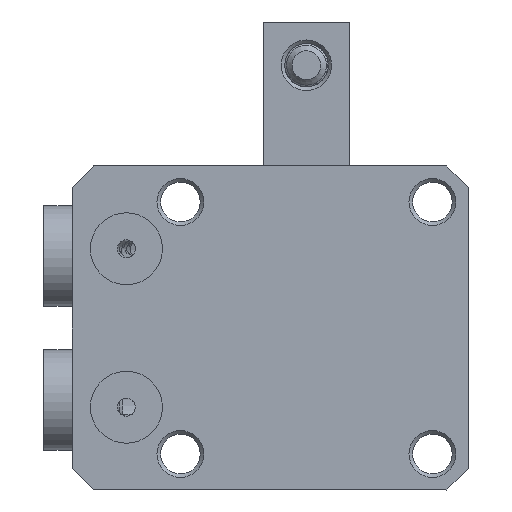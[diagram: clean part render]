
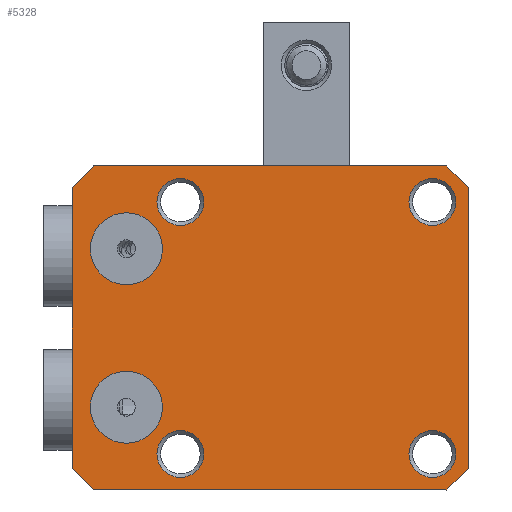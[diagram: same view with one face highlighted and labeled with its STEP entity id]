
A CAD part, front view. The second image highlights one B-rep face of the part: STEP entity #5328.
In plain terms, the highlighted planar face has unit normal (0, -1, 0).
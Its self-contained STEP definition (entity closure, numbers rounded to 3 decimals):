
#172=PLANE('',#5896);
#283=FACE_BOUND('',#840,.T.);
#284=FACE_BOUND('',#841,.T.);
#285=FACE_BOUND('',#842,.T.);
#286=FACE_BOUND('',#843,.T.);
#287=FACE_BOUND('',#844,.T.);
#288=FACE_BOUND('',#845,.T.);
#516=FACE_OUTER_BOUND('',#839,.T.);
#839=EDGE_LOOP('',(#3781,#3782,#3783,#3784,#3785,#3786,#3787,#3788));
#840=EDGE_LOOP('',(#3789));
#841=EDGE_LOOP('',(#3790));
#842=EDGE_LOOP('',(#3791));
#843=EDGE_LOOP('',(#3792));
#844=EDGE_LOOP('',(#3793));
#845=EDGE_LOOP('',(#3794));
#1220=LINE('',#8559,#1611);
#1224=LINE('',#8566,#1615);
#1246=LINE('',#8615,#1637);
#1247=LINE('',#8619,#1638);
#1248=LINE('',#8620,#1639);
#1249=LINE('',#8622,#1640);
#1250=LINE('',#8624,#1641);
#1251=LINE('',#8625,#1642);
#1611=VECTOR('',#6668,1000.);
#1615=VECTOR('',#6674,1000.);
#1637=VECTOR('',#6718,1000.);
#1638=VECTOR('',#6721,1000.);
#1639=VECTOR('',#6722,1000.);
#1640=VECTOR('',#6723,1000.);
#1641=VECTOR('',#6724,1000.);
#1642=VECTOR('',#6725,1000.);
#1972=CIRCLE('',#5826,3.25);
#1975=CIRCLE('',#5830,3.25);
#1978=CIRCLE('',#5834,3.25);
#1981=CIRCLE('',#5838,3.25);
#1983=CIRCLE('',#5841,5.);
#1985=CIRCLE('',#5844,5.);
#2295=VERTEX_POINT('',#8254);
#2298=VERTEX_POINT('',#8262);
#2301=VERTEX_POINT('',#8270);
#2304=VERTEX_POINT('',#8278);
#2306=VERTEX_POINT('',#8284);
#2308=VERTEX_POINT('',#8290);
#2349=VERTEX_POINT('',#8556);
#2350=VERTEX_POINT('',#8558);
#2352=VERTEX_POINT('',#8563);
#2368=VERTEX_POINT('',#8613);
#2369=VERTEX_POINT('',#8617);
#2370=VERTEX_POINT('',#8618);
#2371=VERTEX_POINT('',#8621);
#2372=VERTEX_POINT('',#8623);
#2816=EDGE_CURVE('',#2295,#2295,#1972,.T.);
#2820=EDGE_CURVE('',#2298,#2298,#1975,.T.);
#2824=EDGE_CURVE('',#2301,#2301,#1978,.T.);
#2828=EDGE_CURVE('',#2304,#2304,#1981,.T.);
#2831=EDGE_CURVE('',#2306,#2306,#1983,.T.);
#2834=EDGE_CURVE('',#2308,#2308,#1985,.T.);
#2892=EDGE_CURVE('',#2350,#2349,#1220,.T.);
#2896=EDGE_CURVE('',#2352,#2350,#1224,.T.);
#2921=EDGE_CURVE('',#2349,#2368,#1246,.T.);
#2922=EDGE_CURVE('',#2369,#2370,#1247,.T.);
#2923=EDGE_CURVE('',#2370,#2352,#1248,.T.);
#2924=EDGE_CURVE('',#2368,#2371,#1249,.T.);
#2925=EDGE_CURVE('',#2371,#2372,#1250,.T.);
#2926=EDGE_CURVE('',#2372,#2369,#1251,.T.);
#3781=ORIENTED_EDGE('',*,*,#2922,.T.);
#3782=ORIENTED_EDGE('',*,*,#2923,.T.);
#3783=ORIENTED_EDGE('',*,*,#2896,.T.);
#3784=ORIENTED_EDGE('',*,*,#2892,.T.);
#3785=ORIENTED_EDGE('',*,*,#2921,.T.);
#3786=ORIENTED_EDGE('',*,*,#2924,.T.);
#3787=ORIENTED_EDGE('',*,*,#2925,.T.);
#3788=ORIENTED_EDGE('',*,*,#2926,.T.);
#3789=ORIENTED_EDGE('',*,*,#2816,.T.);
#3790=ORIENTED_EDGE('',*,*,#2820,.T.);
#3791=ORIENTED_EDGE('',*,*,#2824,.T.);
#3792=ORIENTED_EDGE('',*,*,#2828,.T.);
#3793=ORIENTED_EDGE('',*,*,#2831,.T.);
#3794=ORIENTED_EDGE('',*,*,#2834,.T.);
#5328=ADVANCED_FACE('',(#516,#283,#284,#285,#286,#287,#288),#172,.T.);
#5826=AXIS2_PLACEMENT_3D('',#8256,#6520,#6521);
#5830=AXIS2_PLACEMENT_3D('',#8264,#6529,#6530);
#5834=AXIS2_PLACEMENT_3D('',#8272,#6538,#6539);
#5838=AXIS2_PLACEMENT_3D('',#8280,#6547,#6548);
#5841=AXIS2_PLACEMENT_3D('',#8286,#6554,#6555);
#5844=AXIS2_PLACEMENT_3D('',#8292,#6561,#6562);
#5896=AXIS2_PLACEMENT_3D('',#8616,#6719,#6720);
#6520=DIRECTION('center_axis',(0.,1.,0.));
#6521=DIRECTION('ref_axis',(0.,0.,-1.));
#6529=DIRECTION('center_axis',(0.,1.,0.));
#6530=DIRECTION('ref_axis',(0.,0.,-1.));
#6538=DIRECTION('center_axis',(0.,1.,0.));
#6539=DIRECTION('ref_axis',(0.,0.,-1.));
#6547=DIRECTION('center_axis',(0.,1.,0.));
#6548=DIRECTION('ref_axis',(0.,0.,-1.));
#6554=DIRECTION('center_axis',(0.,1.,0.));
#6555=DIRECTION('ref_axis',(0.,0.,-1.));
#6561=DIRECTION('center_axis',(0.,1.,0.));
#6562=DIRECTION('ref_axis',(0.,0.,-1.));
#6668=DIRECTION('',(1.,0.,0.));
#6674=DIRECTION('',(0.707,0.,-0.707));
#6718=DIRECTION('',(0.707,0.,0.707));
#6719=DIRECTION('center_axis',(0.,-1.,0.));
#6720=DIRECTION('ref_axis',(0.,0.,-1.));
#6721=DIRECTION('',(-0.707,0.,-0.707));
#6722=DIRECTION('',(0.,0.,-1.));
#6723=DIRECTION('',(0.,0.,1.));
#6724=DIRECTION('',(-0.707,0.,0.707));
#6725=DIRECTION('',(-1.,0.,0.));
#8254=CARTESIAN_POINT('',(480.63,64.989,20.75));
#8256=CARTESIAN_POINT('Origin',(480.63,64.989,17.5));
#8262=CARTESIAN_POINT('',(445.63,64.989,20.75));
#8264=CARTESIAN_POINT('Origin',(445.63,64.989,17.5));
#8270=CARTESIAN_POINT('',(445.63,64.989,-14.25));
#8272=CARTESIAN_POINT('Origin',(445.63,64.989,-17.5));
#8278=CARTESIAN_POINT('',(480.63,64.989,-14.25));
#8280=CARTESIAN_POINT('Origin',(480.63,64.989,-17.5));
#8284=CARTESIAN_POINT('',(438.13,64.989,-6.));
#8286=CARTESIAN_POINT('Origin',(438.13,64.989,-11.));
#8290=CARTESIAN_POINT('',(438.13,64.989,16.));
#8292=CARTESIAN_POINT('Origin',(438.13,64.989,11.));
#8556=CARTESIAN_POINT('',(482.63,64.989,-22.5));
#8558=CARTESIAN_POINT('',(433.63,64.989,-22.5));
#8559=CARTESIAN_POINT('',(433.63,64.989,-22.5));
#8563=CARTESIAN_POINT('',(430.63,64.989,-19.5));
#8566=CARTESIAN_POINT('',(430.63,64.989,-19.5));
#8613=CARTESIAN_POINT('',(485.63,64.989,-19.5));
#8615=CARTESIAN_POINT('',(482.63,64.989,-22.5));
#8616=CARTESIAN_POINT('Origin',(430.63,64.989,22.5));
#8617=CARTESIAN_POINT('',(433.63,64.989,22.5));
#8618=CARTESIAN_POINT('',(430.63,64.989,19.5));
#8619=CARTESIAN_POINT('',(433.63,64.989,22.5));
#8620=CARTESIAN_POINT('',(430.63,64.989,22.5));
#8621=CARTESIAN_POINT('',(485.63,64.989,19.5));
#8622=CARTESIAN_POINT('',(485.63,64.989,22.5));
#8623=CARTESIAN_POINT('',(482.63,64.989,22.5));
#8624=CARTESIAN_POINT('',(485.63,64.989,19.5));
#8625=CARTESIAN_POINT('',(430.63,64.989,22.5));
